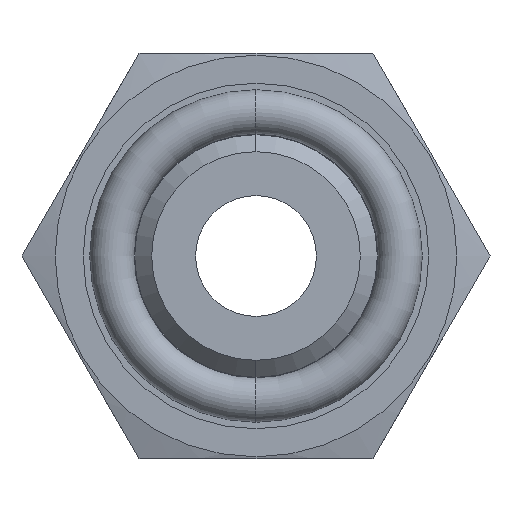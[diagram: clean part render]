
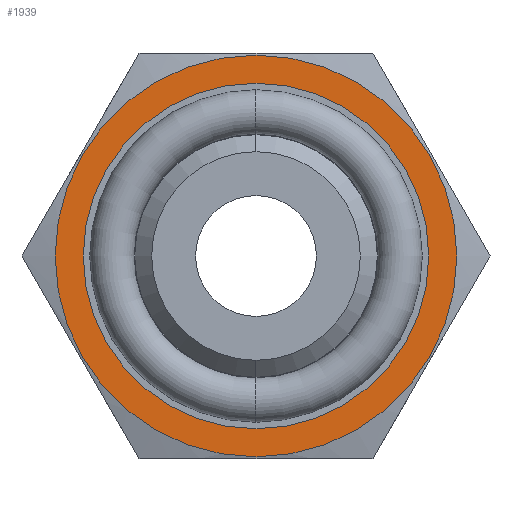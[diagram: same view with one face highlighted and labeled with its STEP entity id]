
A CAD part, left-side view. The second image highlights one B-rep face of the part: STEP entity #1939.
In plain terms, the highlighted planar face has unit normal (-1, 0, 0).
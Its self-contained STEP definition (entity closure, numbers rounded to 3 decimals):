
#5 = ORIENTED_EDGE ( 'NONE', *, *, #364, .T. ) ;
#6 = ORIENTED_EDGE ( 'NONE', *, *, #15, .F. ) ;
#7 = EDGE_LOOP ( 'NONE', ( #6, #10 ) ) ;
#9 = EDGE_CURVE ( 'NONE', #325, #365, #611, .T. ) ;
#10 = ORIENTED_EDGE ( 'NONE', *, *, #362, .F. ) ;
#11 = EDGE_LOOP ( 'NONE', ( #12, #5 ) ) ;
#12 = ORIENTED_EDGE ( 'NONE', *, *, #9, .T. ) ;
#15 = EDGE_CURVE ( 'NONE', #285, #284, #652, .T. ) ;
#284 = VERTEX_POINT ( 'NONE', #1239 ) ;
#285 = VERTEX_POINT ( 'NONE', #1238 ) ;
#325 = VERTEX_POINT ( 'NONE', #1344 ) ;
#362 = EDGE_CURVE ( 'NONE', #284, #285, #1465, .T. ) ;
#364 = EDGE_CURVE ( 'NONE', #365, #325, #1460, .T. ) ;
#365 = VERTEX_POINT ( 'NONE', #1455 ) ;
#611 = CIRCLE ( 'NONE', #658, 11.8 ) ;
#648 = DIRECTION ( 'NONE',  ( 0., 0., 1. ) ) ;
#649 = DIRECTION ( 'NONE',  ( -1., 0., 0. ) ) ;
#650 = CARTESIAN_POINT ( 'NONE',  ( -4.5, 0., 0. ) ) ;
#651 = AXIS2_PLACEMENT_3D ( 'NONE', #650, #649, #648 ) ;
#652 = CIRCLE ( 'NONE', #651, 10.15 ) ;
#655 = DIRECTION ( 'NONE',  ( 0., 0., 1. ) ) ;
#656 = DIRECTION ( 'NONE',  ( -1., 0., 0. ) ) ;
#657 = CARTESIAN_POINT ( 'NONE',  ( -4.5, 0., 0. ) ) ;
#658 = AXIS2_PLACEMENT_3D ( 'NONE', #657, #656, #655 ) ;
#1238 = CARTESIAN_POINT ( 'NONE',  ( -4.5, 0., 10.15 ) ) ;
#1239 = CARTESIAN_POINT ( 'NONE',  ( -4.5, 0., -10.15 ) ) ;
#1344 = CARTESIAN_POINT ( 'NONE',  ( -4.5, 0., -11.8 ) ) ;
#1455 = CARTESIAN_POINT ( 'NONE',  ( -4.5, 0., 11.8 ) ) ;
#1456 = DIRECTION ( 'NONE',  ( 0., 0., 1. ) ) ;
#1457 = DIRECTION ( 'NONE',  ( -1., 0., 0. ) ) ;
#1458 = CARTESIAN_POINT ( 'NONE',  ( -4.5, 0., 0. ) ) ;
#1459 = AXIS2_PLACEMENT_3D ( 'NONE', #1458, #1457, #1456 ) ;
#1460 = CIRCLE ( 'NONE', #1459, 11.8 ) ;
#1461 = DIRECTION ( 'NONE',  ( 0., 0., 1. ) ) ;
#1462 = DIRECTION ( 'NONE',  ( -1., 0., 0. ) ) ;
#1463 = CARTESIAN_POINT ( 'NONE',  ( -4.5, 0., 0. ) ) ;
#1464 = AXIS2_PLACEMENT_3D ( 'NONE', #1463, #1462, #1461 ) ;
#1465 = CIRCLE ( 'NONE', #1464, 10.15 ) ;
#1820 = DIRECTION ( 'NONE',  ( 0., 0., 1. ) ) ;
#1821 = DIRECTION ( 'NONE',  ( -1., 0., 0. ) ) ;
#1822 = AXIS2_PLACEMENT_3D ( 'NONE', #1824, #1821, #1820 ) ;
#1824 = CARTESIAN_POINT ( 'NONE',  ( -4.5, 0., 0. ) ) ;
#1825 = PLANE ( 'NONE',  #1822 ) ;
#1826 = FACE_OUTER_BOUND ( 'NONE', #11, .T. ) ;
#1831 = FACE_BOUND ( 'NONE', #7, .T. ) ;
#1939 = ADVANCED_FACE ( 'NONE', ( #1831, #1826 ), #1825, .T. ) ;
